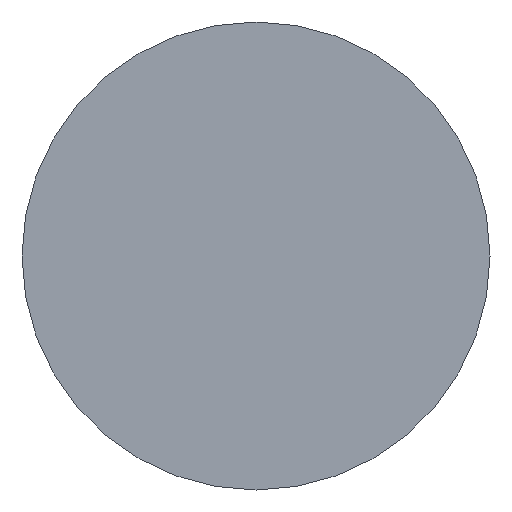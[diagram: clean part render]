
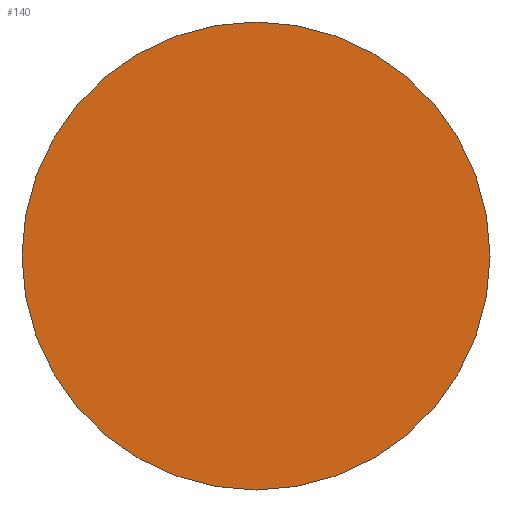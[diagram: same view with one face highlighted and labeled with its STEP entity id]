
A CAD part, front view. The second image highlights one B-rep face of the part: STEP entity #140.
In plain terms, the highlighted planar face has unit normal (0, -1, 0).
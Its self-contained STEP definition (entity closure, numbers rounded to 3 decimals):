
#31 = CYLINDRICAL_SURFACE('',#32,9.688);
#32 = AXIS2_PLACEMENT_3D('',#33,#34,#35);
#33 = CARTESIAN_POINT('',(0.,-31.,483.472));
#34 = DIRECTION('',(0.,1.,0.));
#35 = DIRECTION('',(0.,-0.,1.));
#56 = VERTEX_POINT('',#57);
#57 = CARTESIAN_POINT('',(0.,-31.,493.16));
#78 = EDGE_CURVE('',#56,#56,#79,.T.);
#79 = SURFACE_CURVE('',#80,(#85,#92),.PCURVE_S1.);
#80 = CIRCLE('',#81,9.688);
#81 = AXIS2_PLACEMENT_3D('',#82,#83,#84);
#82 = CARTESIAN_POINT('',(0.,-31.,483.472));
#83 = DIRECTION('',(0.,1.,0.));
#84 = DIRECTION('',(0.,-0.,1.));
#85 = PCURVE('',#31,#86);
#86 = DEFINITIONAL_REPRESENTATION('',(#87),#91);
#87 = LINE('',#88,#89);
#88 = CARTESIAN_POINT('',(0.,0.));
#89 = VECTOR('',#90,1.);
#90 = DIRECTION('',(1.,0.));
#91 = ( GEOMETRIC_REPRESENTATION_CONTEXT(2) 
PARAMETRIC_REPRESENTATION_CONTEXT() REPRESENTATION_CONTEXT('2D SPACE',''
  ) );
#92 = PCURVE('',#93,#98);
#93 = PLANE('',#94);
#94 = AXIS2_PLACEMENT_3D('',#95,#96,#97);
#95 = CARTESIAN_POINT('',(0.,-31.,483.472));
#96 = DIRECTION('',(0.,1.,0.));
#97 = DIRECTION('',(0.,-0.,1.));
#98 = DEFINITIONAL_REPRESENTATION('',(#99),#103);
#99 = CIRCLE('',#100,9.688);
#100 = AXIS2_PLACEMENT_2D('',#101,#102);
#101 = CARTESIAN_POINT('',(0.,0.));
#102 = DIRECTION('',(1.,0.));
#103 = ( GEOMETRIC_REPRESENTATION_CONTEXT(2) 
PARAMETRIC_REPRESENTATION_CONTEXT() REPRESENTATION_CONTEXT('2D SPACE',''
  ) );
#140 = ADVANCED_FACE('',(#141),#93,.F.);
#141 = FACE_BOUND('',#142,.T.);
#142 = EDGE_LOOP('',(#143));
#143 = ORIENTED_EDGE('',*,*,#78,.F.);
